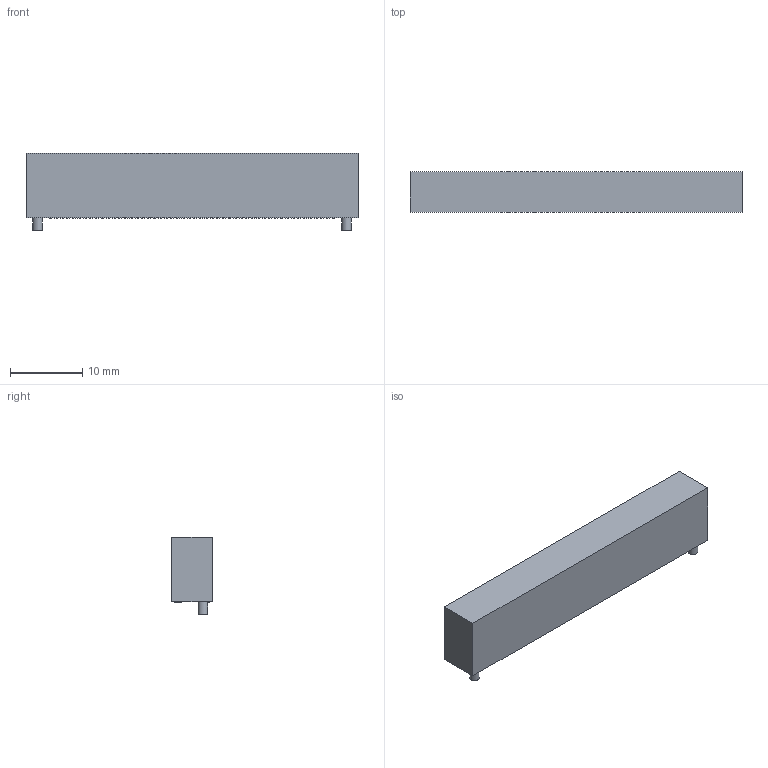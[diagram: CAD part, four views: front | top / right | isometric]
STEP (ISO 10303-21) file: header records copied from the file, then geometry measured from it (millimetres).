
FILE_DESCRIPTION(('FreeCAD Model'),'2;1');
FILE_NAME('/var/www/3D/0T/993730.1.1.stp','2020-04-09T18:24:56',( 'Author'),(''),'Open CASCADE STEP processor 6.9','FreeCAD','Unknown' );
FILE_SCHEMA(('AUTOMOTIVE_DESIGN { 1 0 10303 214 1 1 1 1 }'));
Length unit declared in the file: millimetre
Products named in the file (4): ASSEMBLY; Body; Pins; Lugs
Assembly tree (4 placements, depth 2):
  ASSEMBLY
    Body
    Pins
    Lugs  x2
Bounding box: 46 x 5.6 x 10.71 mm (x, y, z)
Volume: 2307.9 mm3; surface area: 1583.4 mm2
Topology: 105 solids, 105 shells, 618 faces, 1224 edges, 816 vertices
Faces by surface type: plane 614, cylinder 4
Full cylindrical faces by diameter (mm): 1.33 x4
Entity records: 32100 total; most frequent: CARTESIAN_POINT 5083, DIRECTION 4892, LINE 3646, VECTOR 3646, ORIENTED_EDGE 2436, PCURVE 2436, DEFINITIONAL_REPRESENTATION 2436, EDGE_CURVE 1218
